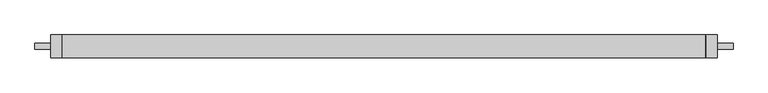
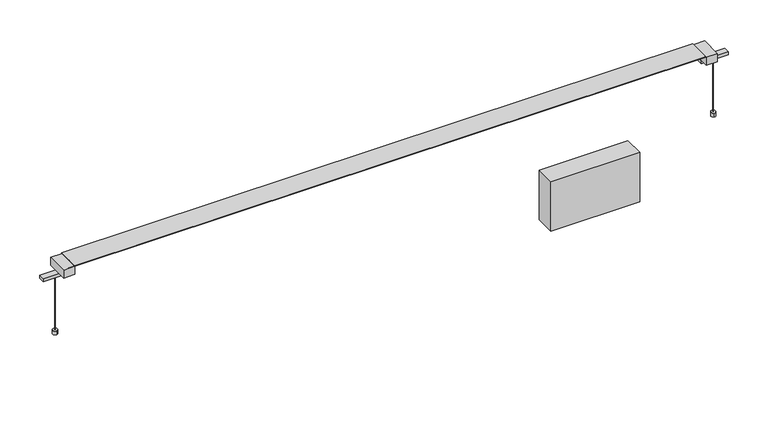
"""IFC4 building model written with IfcOpenShell, lengths in millimetres: light fixture geometry, Fabbian.Pivot F39 (F39 A01A 01,F39 A01A 21,F39 A01A 76,F39 A02A 01,F39 A02A 21,F39 A02A 76) : F39 A01A 01."""

from ifc_helpers import new_model, si_unit, point, frame, frame_2d, origin, origin_with_axes, place, context, project, spatial, polyline, circle_curve, trimmed, segment, composite_curve, outline, extrude, source, transform, mapped, element, save


def light_fixture_b22f9c4b(model_context):
    return source(origin(), model_context, "Body", "SweptSolid", [
        extrude(outline(composite_curve([segment(trimmed(circle_curve(frame_2d((815.8132834, 0.0)), 0.4949808), [point((816.3082642, 0.0))], [point((815.3183026, 0.0))], False, "CARTESIAN"), True, "CONTINUOUS"), segment(trimmed(circle_curve(frame_2d((815.8132834, 0.0)), 0.4949808), [point((815.3183026, 0.0))], [point((816.3082642, 0.0))], False, "CARTESIAN"), True, "CONTINUOUS")], self_intersect=False)), origin_with_axes(), (0.0, 0.0, 1.0), 151.6242394),
        extrude(outline(composite_curve([segment(trimmed(circle_curve(frame_2d((-815.8132834, 0.0)), 0.4949808), [point((-816.3082642, 0.0))], [point((-815.3183026, 0.0))], False, "CARTESIAN"), True, "CONTINUOUS"), segment(trimmed(circle_curve(frame_2d((-815.8132834, 0.0)), 0.4949808), [point((-815.3183026, 0.0))], [point((-816.3082642, 0.0))], False, "CARTESIAN"), True, "CONTINUOUS")], self_intersect=False)), origin_with_axes(), (0.0, 0.0, 1.0), 151.6242394),
        extrude(outline(polyline([(619.1350388, 24.9666442), (619.1350388, -25.0334567), (399.1348055, -25.0334567), (399.1348055, 24.9666442), (619.1350388, 24.9666442)])), frame((0.0, 0.0, -142.875), z_axis=(0.0, 0.0, 1.0), x_axis=(1.0, 0.0, 0.0)), (0.0, 0.0, 1.0), 130.175),
        extrude(outline(polyline([(-0.4107254, 159.893756), (-26.3879175, 181.0787506), (25.5497693, 181.0787506), (0.4107259, 159.893756), (0.4107259, 160.681594), (-0.4107254, 160.681594), (-0.4107254, 159.893756)])), frame((-782.3132834, 0.0, 0.0), z_axis=(1.0, 0.0, 0.0), x_axis=(0.0, 1.0, 0.0)), (0.0, 0.0, 1.0), 1564.6265668),
        extrude(outline(polyline([(-782.3132834, 27.7285043), (-782.3132834, -27.7953166), (-810.5140956, -27.7953166), (-810.5140956, 27.7285043), (-782.3132834, 27.7285043)])), frame((0.0, 0.0, 159.6242394), z_axis=(0.0, 0.0, 1.0), x_axis=(1.0, 0.0, 0.0)), (0.0, 0.0, 1.0), 20.8761838),
        extrude(outline(polyline([(782.3132834, 27.7285042), (810.5140956, 27.7285042), (810.5140956, -27.7953167), (782.3132834, -27.7953167), (782.3132834, 27.7285042)])), frame((0.0, 0.0, 159.6242394), z_axis=(0.0, 0.0, 1.0), x_axis=(1.0, 0.0, 0.0)), (0.0, 0.0, 1.0), 20.8761838),
        extrude(outline(polyline([(0.0, -0.8214513), (0.0, 0.0), (1564.6265668, 0.0), (1564.6265668, -0.8214513), (0.0, -0.8214513)])), frame((-782.3132834, 0.4107259, 159.893756), z_axis=(-5.7155291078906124e-11, 0.0, 1.0), x_axis=(1.0, 0.0, 5.7155291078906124e-11)), (0.0, 0.0, 1.0), 0.787838),
        extrude(outline(polyline([(781.7488887, -27.7780006), (-782.3132834, -27.7780006), (-782.3132834, 27.7779986), (781.7488887, 27.7779986), (781.7488887, -27.7780006)])), frame((0.0, 0.0, 181.0787506), z_axis=(0.0, 0.0, 1.0), x_axis=(1.0, 0.0, 0.0)), (0.0, 0.0, 1.0), 1.1514277),
        extrude(outline(composite_curve([segment(trimmed(circle_curve(frame_2d((815.8133121, -0.4556113)), 5.8155806), [point((816.6410047, 5.3007681))], [point((814.9856195, -6.2119906))], False, "CARTESIAN"), True, "CONTINUOUS"), segment(trimmed(circle_curve(frame_2d((815.8133121, -0.4556113)), 5.8155806), [point((814.9856195, -6.2119906))], [point((816.6410047, 5.3007681))], False, "CARTESIAN"), True, "CONTINUOUS")], self_intersect=False)), origin_with_axes(), (0.0, 0.0, 1.0), 9.6582083),
        extrude(outline(composite_curve([segment(trimmed(circle_curve(frame_2d((-815.8133121, -0.4556113)), 5.8155806), [point((-816.6410047, 5.3007681))], [point((-814.9856195, -6.2119906))], False, "CARTESIAN"), True, "CONTINUOUS"), segment(trimmed(circle_curve(frame_2d((-815.8133121, -0.4556113)), 5.8155806), [point((-814.9856195, -6.2119906))], [point((-816.6410047, 5.3007681))], False, "CARTESIAN"), True, "CONTINUOUS")], self_intersect=False)), origin_with_axes(), (0.0, 0.0, 1.0), 9.6582083),
        extrude(outline(polyline([(849.3132834, -7.5334062), (782.3132834, -7.5334062), (782.3132834, 7.4665938), (849.3132834, 7.4665938), (849.3132834, -7.5334062)])), frame((0.0, 0.0, 151.6242394), z_axis=(0.0, 0.0, 1.0), x_axis=(1.0, 0.0, 0.0)), (0.0, 0.0, 1.0), 8.0),
        extrude(outline(polyline([(-782.3132834, -7.5334062), (-849.3132834, -7.5334062), (-849.3132834, 7.4665938), (-782.3132834, 7.4665938), (-782.3132834, -7.5334062)])), frame((0.0, 0.0, 151.6242394), z_axis=(0.0, 0.0, 1.0), x_axis=(1.0, 0.0, 0.0)), (0.0, 0.0, 1.0), 8.0),
    ])


if __name__ == "__main__":
    model = new_model("IFC4")
    model_context = context("Model", 3, world=origin())
    ifc_project = project(units=[si_unit("LENGTHUNIT", "METRE", prefix="MILLI")], contexts=[model_context])
    site = spatial("IfcSite", under=ifc_project)
    building = spatial("IfcBuilding", under=site)
    placement = place(None, origin())
    light_fixture_shape = light_fixture_b22f9c4b(model_context)
    element("IfcLightFixture", 1, ObjectType="Fabbian.Pivot F39 (F39 A01A 01,F39 A01A 21,F39 A01A 76,F39 A02A 01,F39 A02A 21,F39 A02A 76) : F39 A01A 01", at=placement, inside=building, context=model_context, shape_type="MappedRepresentation", body=[
        mapped(light_fixture_shape, transform((0.0, 0.0, 0.0), x_axis=(1.0, 0.0, 0.0), y_axis=(0.0, 1.0, 0.0), z_axis=(0.0, 0.0, 1.0))),
    ])
    save(model, "model.ifc")
